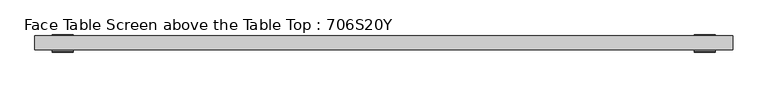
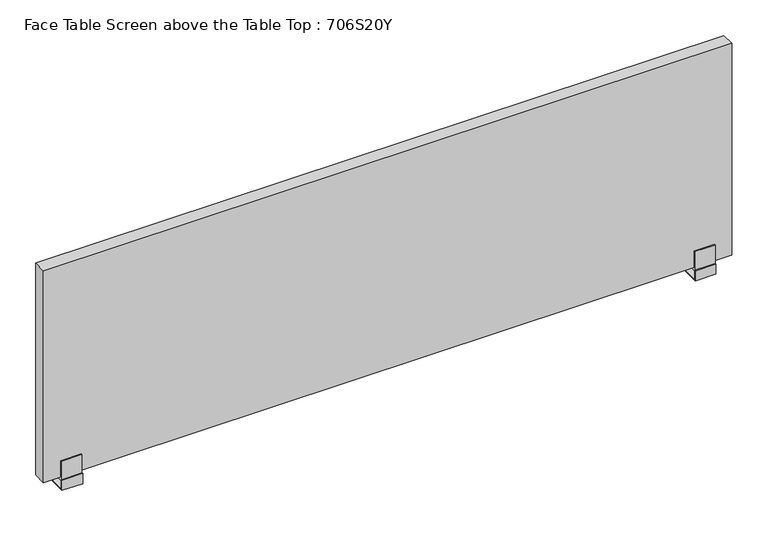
"""IFC4 building model written with IfcOpenShell, lengths in millimetres: furniture geometry, Face Table Screen above the Table Top : 706S20Y."""

from ifc_helpers import new_model, si_unit, frame, origin, place, context, project, spatial, polyline, circle_curve, outline, extrude, source, transform, mapped, element, save
from ifc_brep_helpers import plane_surface, cylinder_surface, advanced_brep


def face_table_screen_above_the_table_top_706s20y_973e4218(model_context):
    return source(origin(), model_context, "Body", "SolidModel", [
        advanced_brep(
        [(-925.0, 0.0, -39.4406633), (-915.0, 0.0, -39.4406633), (-915.0, 0.0, -28.0), (-925.0, 0.0, -28.0), (-950.0, 23.0, -25.0), (-950.0, -23.0, -25.0), (-890.0, -23.0, -25.0), (-890.0, 23.0, -25.0), (-950.0, -23.0, 0.0), (-950.0, 23.0, -28.0), (-950.0, -26.0, -28.0), (-950.0, -26.0, 3.0), (-950.0, -23.0, 3.0), (-950.0, -23.0, 60.0), (-950.0, -20.0, 60.0), (-950.0, -20.0, 10.0), (-950.0, 20.0, 10.0), (-950.0, 20.0, 60.0), (-950.0, 23.0, 60.0), (-950.0, 23.0, 0.0), (-890.0, -23.0, 0.0), (-890.0, 23.0, 0.0), (-890.0, 23.0, 60.0), (-890.0, 20.0, 60.0), (-890.0, 20.0, 10.0), (-890.0, -20.0, 10.0), (-890.0, -20.0, 60.0), (-890.0, -23.0, 60.0), (-890.0, -23.0, 3.0), (-890.0, -26.0, 3.0), (-890.0, -26.0, -28.0), (-890.0, 23.0, -28.0)],
        [
            (0, 1, circle_curve(frame((-920.0, 0.0, -39.4406633), z_axis=(0.0, 0.0, -1.0), x_axis=(1.0, 0.0, 0.0)), 5.0)),
            (1, 0, circle_curve(frame((-920.0, 0.0, -39.4406633), z_axis=(0.0, 0.0, -1.0), x_axis=(1.0, 0.0, 0.0)), 5.0)),
            (1, 2),
            (2, 3, circle_curve(frame((-920.0, 0.0, -28.0), z_axis=(0.0, 0.0, -1.0), x_axis=(1.0, 0.0, 0.0)), 5.0)),
            (3, 0),
            (3, 2, circle_curve(frame((-920.0, 0.0, -28.0), z_axis=(0.0, 0.0, -1.0), x_axis=(1.0, 0.0, 0.0)), 5.0)),
            (4, 5),
            (5, 6),
            (6, 7),
            (7, 4),
            (8, 5),
            (4, 9),
            (9, 10),
            (10, 11),
            (11, 12),
            (12, 13),
            (13, 14),
            (14, 15),
            (15, 16),
            (16, 17),
            (17, 18),
            (18, 19),
            (19, 8),
            (20, 21),
            (21, 22),
            (22, 23),
            (23, 24),
            (24, 25),
            (25, 26),
            (26, 27),
            (27, 28),
            (28, 29),
            (29, 30),
            (30, 31),
            (31, 7),
            (6, 20),
            (19, 21),
            (20, 8),
            (18, 22),
            (17, 23),
            (16, 24),
            (15, 25),
            (14, 26),
            (13, 27),
            (12, 28),
            (11, 29),
            (10, 30),
            (9, 31),
        ],
        [
            plane_surface(frame((-915.0, 0.0, -39.4406633), z_axis=(0.0, 0.0, -1.0), x_axis=(0.0, -1.0, 0.0))),
            cylinder_surface(frame((-920.0, 0.0, -39.4406633), z_axis=(0.0, 0.0, 1.0), x_axis=(1.0, 0.0, 0.0)), 5.0),
            plane_surface(frame((-915.0, 0.0, -25.0), z_axis=(0.0, 0.0, 1.0), x_axis=(0.0, 1.0, 0.0))),
            plane_surface(frame((-950.0, 23.0, 0.0), z_axis=(-1.0, 0.0, 0.0), x_axis=(0.0, -1.0, 0.0))),
            plane_surface(frame((-890.0, 23.0, 0.0), z_axis=(1.0, 0.0, 0.0), x_axis=(0.0, 1.0, 0.0))),
            plane_surface(frame((-890.0, -23.0, 0.0), z_axis=(0.0, 0.0, -1.0), x_axis=(-1.0, 0.0, 0.0))),
            plane_surface(frame((-890.0, 23.0, 0.0), z_axis=(0.0, 1.0, 0.0), x_axis=(-1.0, 0.0, 0.0))),
            plane_surface(frame((-890.0, 23.0, 60.0), z_axis=(0.0, 0.0, 1.0), x_axis=(-1.0, 0.0, 0.0))),
            plane_surface(frame((-890.0, 20.0, 60.0), z_axis=(0.0, -1.0, 0.0), x_axis=(-1.0, 0.0, 0.0))),
            plane_surface(frame((-890.0, 20.0, 10.0), z_axis=(0.0, 0.0, 1.0), x_axis=(-1.0, 0.0, 0.0))),
            plane_surface(frame((-890.0, -20.0, 10.0), z_axis=(0.0, 1.0, 0.0), x_axis=(-1.0, 0.0, 0.0))),
            plane_surface(frame((-890.0, -20.0, 60.0), z_axis=(0.0, 0.0, 1.0), x_axis=(-1.0, 0.0, 0.0))),
            plane_surface(frame((-890.0, -23.0, 60.0), z_axis=(0.0, -1.0, 0.0), x_axis=(-1.0, 0.0, 0.0))),
            plane_surface(frame((-890.0, -23.0, 3.0), z_axis=(0.0, 0.0, 1.0), x_axis=(-1.0, 0.0, 0.0))),
            plane_surface(frame((-890.0, -26.0, 3.0), z_axis=(0.0, -1.0, 0.0), x_axis=(-1.0, 0.0, 0.0))),
            plane_surface(frame((-890.0, -26.0, -28.0), z_axis=(0.0, 0.0, -1.0), x_axis=(-1.0, 0.0, 0.0))),
            plane_surface(frame((-890.0, 23.0, -28.0), z_axis=(0.0, 1.0, 0.0), x_axis=(-1.0, 0.0, 0.0))),
            plane_surface(frame((-890.0, -23.0, -25.0), z_axis=(0.0, 1.0, 0.0), x_axis=(-1.0, 0.0, 0.0))),
        ],
        [
            (0, [[1, 2]]),
            (1, [[-2, 3, 4, 5]]),
            (1, [[-1, -5, 6, -3]]),
            (2, [[7, 8, 9, 10]]),
            (3, [[11, -7, 12, 13, 14, 15, 16, 17, 18, 19, 20, 21, 22, 23]]),
            (4, [[24, 25, 26, 27, 28, 29, 30, 31, 32, 33, 34, 35, -9, 36]]),
            (5, [[-23, 37, -24, 38]]),
            (6, [[-22, 39, -25, -37]]),
            (7, [[-21, 40, -26, -39]]),
            (8, [[-20, 41, -27, -40]]),
            (9, [[-19, 42, -28, -41]]),
            (10, [[-18, 43, -29, -42]]),
            (11, [[-17, 44, -30, -43]]),
            (12, [[-16, 45, -31, -44]]),
            (13, [[-15, 46, -32, -45]]),
            (14, [[-14, 47, -33, -46]]),
            (15, [[-13, 48, -34, -47], [-4, -6]]),
            (16, [[-12, -10, -35, -48]]),
            (17, [[-11, -38, -36, -8]]),
        ],
    ),
        advanced_brep(
        [(915.0, 0.0, -39.4406633), (925.0, 0.0, -39.4406633), (925.0, 0.0, -28.0), (915.0, 0.0, -28.0), (890.0, 23.0, -25.0), (890.0, -23.0, -25.0), (950.0, -23.0, -25.0), (950.0, 23.0, -25.0), (890.0, -23.0, 0.0), (890.0, 23.0, -28.0), (890.0, -26.0, -28.0), (890.0, -26.0, 3.0), (890.0, -23.0, 3.0), (890.0, -23.0, 60.0), (890.0, -20.0, 60.0), (890.0, -20.0, 10.0), (890.0, 20.0, 10.0), (890.0, 20.0, 60.0), (890.0, 23.0, 60.0), (890.0, 23.0, 0.0), (950.0, -23.0, 0.0), (950.0, 23.0, 0.0), (950.0, 23.0, 60.0), (950.0, 20.0, 60.0), (950.0, 20.0, 10.0), (950.0, -20.0, 10.0), (950.0, -20.0, 60.0), (950.0, -23.0, 60.0), (950.0, -23.0, 3.0), (950.0, -26.0, 3.0), (950.0, -26.0, -28.0), (950.0, 23.0, -28.0)],
        [
            (0, 1, circle_curve(frame((920.0, 0.0, -39.4406633), z_axis=(0.0, 0.0, -1.0), x_axis=(1.0, 0.0, 0.0)), 5.0)),
            (1, 0, circle_curve(frame((920.0, 0.0, -39.4406633), z_axis=(0.0, 0.0, -1.0), x_axis=(1.0, 0.0, 0.0)), 5.0)),
            (1, 2),
            (2, 3, circle_curve(frame((920.0, 0.0, -28.0), z_axis=(0.0, 0.0, -1.0), x_axis=(1.0, 0.0, 0.0)), 5.0)),
            (3, 0),
            (3, 2, circle_curve(frame((920.0, 0.0, -28.0), z_axis=(0.0, 0.0, -1.0), x_axis=(1.0, 0.0, 0.0)), 5.0)),
            (4, 5),
            (5, 6),
            (6, 7),
            (7, 4),
            (8, 5),
            (4, 9),
            (9, 10),
            (10, 11),
            (11, 12),
            (12, 13),
            (13, 14),
            (14, 15),
            (15, 16),
            (16, 17),
            (17, 18),
            (18, 19),
            (19, 8),
            (20, 21),
            (21, 22),
            (22, 23),
            (23, 24),
            (24, 25),
            (25, 26),
            (26, 27),
            (27, 28),
            (28, 29),
            (29, 30),
            (30, 31),
            (31, 7),
            (6, 20),
            (19, 21),
            (20, 8),
            (18, 22),
            (17, 23),
            (16, 24),
            (15, 25),
            (14, 26),
            (13, 27),
            (12, 28),
            (11, 29),
            (10, 30),
            (9, 31),
        ],
        [
            plane_surface(frame((925.0, 0.0, -39.4406633), z_axis=(0.0, 0.0, -1.0), x_axis=(0.0, -1.0, 0.0))),
            cylinder_surface(frame((920.0, 0.0, -39.4406633), z_axis=(0.0, 0.0, 1.0), x_axis=(1.0, 0.0, 0.0)), 5.0),
            plane_surface(frame((925.0, 0.0, -25.0), z_axis=(0.0, 0.0, 1.0), x_axis=(0.0, 1.0, 0.0))),
            plane_surface(frame((890.0, 23.0, 0.0), z_axis=(-1.0, 0.0, 0.0), x_axis=(0.0, -1.0, 0.0))),
            plane_surface(frame((950.0, 23.0, 0.0), z_axis=(1.0, 0.0, 0.0), x_axis=(0.0, 1.0, 0.0))),
            plane_surface(frame((950.0, -23.0, 0.0), z_axis=(0.0, 0.0, -1.0), x_axis=(-1.0, 0.0, 0.0))),
            plane_surface(frame((950.0, 23.0, 0.0), z_axis=(0.0, 1.0, 0.0), x_axis=(-1.0, 0.0, 0.0))),
            plane_surface(frame((950.0, 23.0, 60.0), z_axis=(0.0, 0.0, 1.0), x_axis=(-1.0, 0.0, 0.0))),
            plane_surface(frame((950.0, 20.0, 60.0), z_axis=(0.0, -1.0, 0.0), x_axis=(-1.0, 0.0, 0.0))),
            plane_surface(frame((950.0, 20.0, 10.0), z_axis=(0.0, 0.0, 1.0), x_axis=(-1.0, 0.0, 0.0))),
            plane_surface(frame((950.0, -20.0, 10.0), z_axis=(0.0, 1.0, 0.0), x_axis=(-1.0, 0.0, 0.0))),
            plane_surface(frame((950.0, -20.0, 60.0), z_axis=(0.0, 0.0, 1.0), x_axis=(-1.0, 0.0, 0.0))),
            plane_surface(frame((950.0, -23.0, 60.0), z_axis=(0.0, -1.0, 0.0), x_axis=(-1.0, 0.0, 0.0))),
            plane_surface(frame((950.0, -23.0, 3.0), z_axis=(0.0, 0.0, 1.0), x_axis=(-1.0, 0.0, 0.0))),
            plane_surface(frame((950.0, -26.0, 3.0), z_axis=(0.0, -1.0, 0.0), x_axis=(-1.0, 0.0, 0.0))),
            plane_surface(frame((950.0, -26.0, -28.0), z_axis=(0.0, 0.0, -1.0), x_axis=(-1.0, 0.0, 0.0))),
            plane_surface(frame((950.0, 23.0, -28.0), z_axis=(0.0, 1.0, 0.0), x_axis=(-1.0, 0.0, 0.0))),
            plane_surface(frame((950.0, -23.0, -25.0), z_axis=(0.0, 1.0, 0.0), x_axis=(-1.0, 0.0, 0.0))),
        ],
        [
            (0, [[1, 2]]),
            (1, [[-2, 3, 4, 5]]),
            (1, [[-1, -5, 6, -3]]),
            (2, [[7, 8, 9, 10]]),
            (3, [[11, -7, 12, 13, 14, 15, 16, 17, 18, 19, 20, 21, 22, 23]]),
            (4, [[24, 25, 26, 27, 28, 29, 30, 31, 32, 33, 34, 35, -9, 36]]),
            (5, [[-23, 37, -24, 38]]),
            (6, [[-22, 39, -25, -37]]),
            (7, [[-21, 40, -26, -39]]),
            (8, [[-20, 41, -27, -40]]),
            (9, [[-19, 42, -28, -41]]),
            (10, [[-18, 43, -29, -42]]),
            (11, [[-17, 44, -30, -43]]),
            (12, [[-16, 45, -31, -44]]),
            (13, [[-15, 46, -32, -45]]),
            (14, [[-14, 47, -33, -46]]),
            (15, [[-13, 48, -34, -47], [-4, -6]]),
            (16, [[-12, -10, -35, -48]]),
            (17, [[-11, -38, -36, -8]]),
        ],
    ),
        extrude(outline(polyline([(1000.0, -20.0), (-1000.0, -20.0), (-1000.0, 20.0), (1000.0, 20.0), (1000.0, -20.0)])), frame((0.0, 0.0, 10.0), z_axis=(0.0, 0.0, 1.0), x_axis=(1.0, 0.0, 0.0)), (0.0, 0.0, 1.0), 650.0),
    ])


if __name__ == "__main__":
    model = new_model("IFC4")
    model_context = context("Model", 3, world=origin())
    ifc_project = project(units=[si_unit("LENGTHUNIT", "METRE", prefix="MILLI")], contexts=[model_context])
    site = spatial("IfcSite", under=ifc_project)
    building = spatial("IfcBuilding", under=site)
    placement = place(None, origin())
    face_table_screen_above_the_table_top_706s20y_shape = face_table_screen_above_the_table_top_706s20y_973e4218(model_context)
    element("IfcFurniture", 1, ObjectType="Face Table Screen above the Table Top : 706S20Y", at=placement, inside=building, context=model_context, shape_type="MappedRepresentation", body=[
        mapped(face_table_screen_above_the_table_top_706s20y_shape, transform((0.0, 0.0, 0.0), x_axis=(1.0, 0.0, 0.0), y_axis=(0.0, 1.0, 0.0), z_axis=(0.0, 0.0, 1.0))),
    ])
    save(model, "model.ifc")
